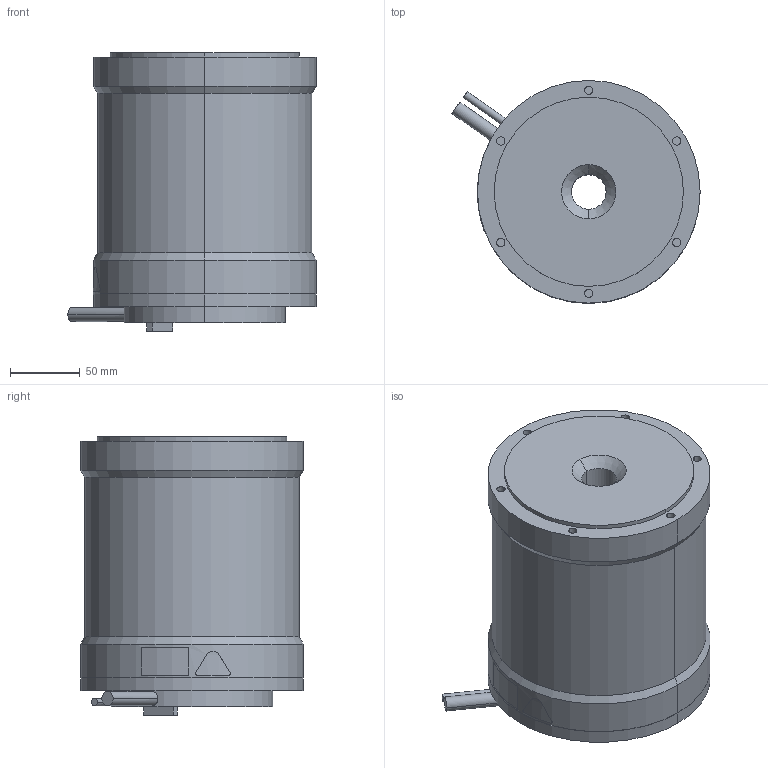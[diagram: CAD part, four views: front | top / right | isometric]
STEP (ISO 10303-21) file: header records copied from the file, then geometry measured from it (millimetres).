
FILE_DESCRIPTION (( 'STEP AP203' ), '1' );
FILE_NAME ('sgm7d_45g_c4_.STEP', '2016-02-22T08:25:56', ( '' ), ( '' ), 'SwSTEP 2.0', 'SolidWorks 2010', '' );
FILE_SCHEMA (( 'CONFIG_CONTROL_DESIGN' ));
Length unit declared in the file: millimetre
Products named in the file (1): sgm7d_45g_c4_
Bounding box: 178.36 x 160 x 200 mm (x, y, z)
Volume: 3500217.4 mm3; surface area: 157178 mm2
Topology: 3 solids, 3 shells, 190 faces, 425 edges, 280 vertices
Faces by surface type: cylinder 108, plane 71, cone 6, bspline 5
Entity records: 5808 total; most frequent: CARTESIAN_POINT 1329, DIRECTION 989, ORIENTED_EDGE 850, EDGE_CURVE 425, AXIS2_PLACEMENT_3D 398, VERTEX_POINT 280, EDGE_LOOP 231, CIRCLE 212
